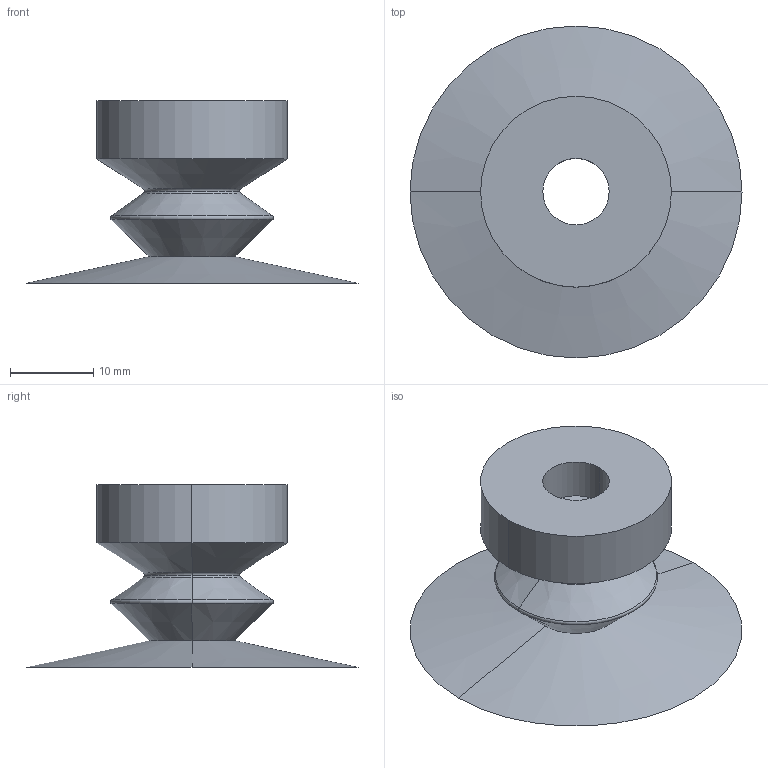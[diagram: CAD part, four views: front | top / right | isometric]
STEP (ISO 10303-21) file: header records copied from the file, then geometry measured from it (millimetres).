
FILE_DESCRIPTION (( 'STEP AP214' ), '1' );
FILE_NAME ('VSH2-M40.STEP', '2019-12-02T06:51:00', ( '微软用户' ), ( '微软中国' ), 'SwSTEP 2.0', 'SolidWorks 2016', '' );
FILE_SCHEMA (( 'AUTOMOTIVE_DESIGN' ));
Length unit declared in the file: millimetre
Products named in the file (1): VSH2-M40
Bounding box: 40 x 40 x 22 mm (x, y, z)
Volume: 2484 mm3; surface area: 5756.1 mm2
Topology: 1 solids, 1 shells, 35 faces, 70 edges, 38 vertices
Faces by surface type: cone 16, torus 10, cylinder 6, plane 3
Entity records: 942 total; most frequent: DIRECTION 190, CARTESIAN_POINT 144, ORIENTED_EDGE 140, AXIS2_PLACEMENT_3D 84, EDGE_CURVE 70, CIRCLE 48, EDGE_LOOP 38, VERTEX_POINT 38
